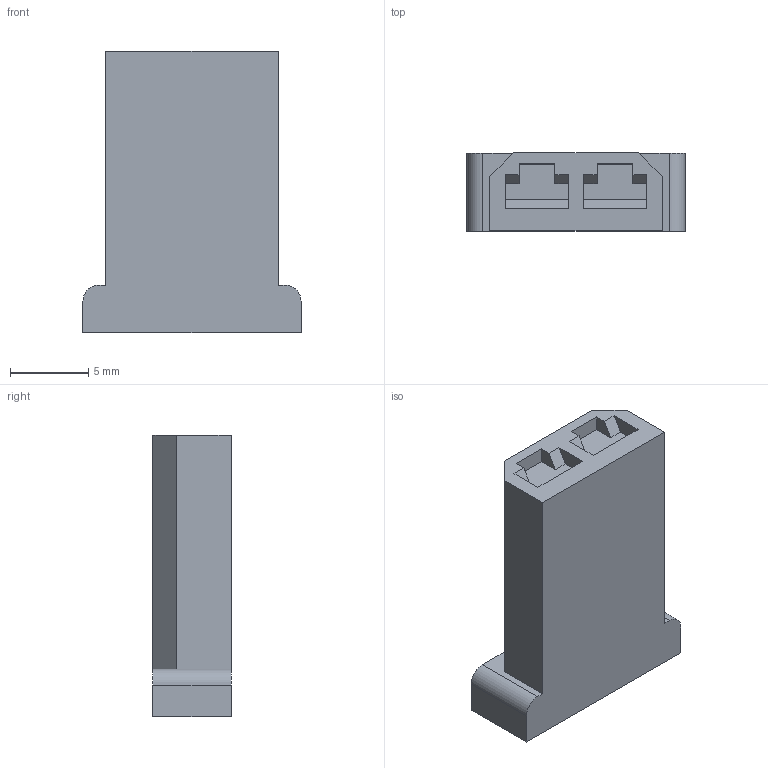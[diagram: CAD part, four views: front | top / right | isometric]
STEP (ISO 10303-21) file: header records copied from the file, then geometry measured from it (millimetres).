
FILE_DESCRIPTION((''),'2;1');
FILE_NAME('C-925014','2016-02-19T',('workeradm'),('Tyco Electronics Ltd.'),'CREO PARAMETRIC BY PTC INC, 2015200','CREO PARAMETRIC BY PTC INC, 2015200','');
FILE_SCHEMA(('AUTOMOTIVE_DESIGN { 1 0 10303 214 1 1 1 1 }'));
Length unit declared in the file: millimetre
Products named in the file (1): C-925014
Bounding box: 13.97 x 5 x 18.03 mm (x, y, z)
Volume: 959.1 mm3; surface area: 747.7 mm2
Topology: 1 solids, 1 shells, 50 faces, 124 edges, 80 vertices
Faces by surface type: plane 48, cylinder 2
Entity records: 1493 total; most frequent: CARTESIAN_POINT 256, ORIENTED_EDGE 248, DIRECTION 228, EDGE_CURVE 124, VECTOR 120, LINE 120, VERTEX_POINT 80, AXIS2_PLACEMENT_3D 54
